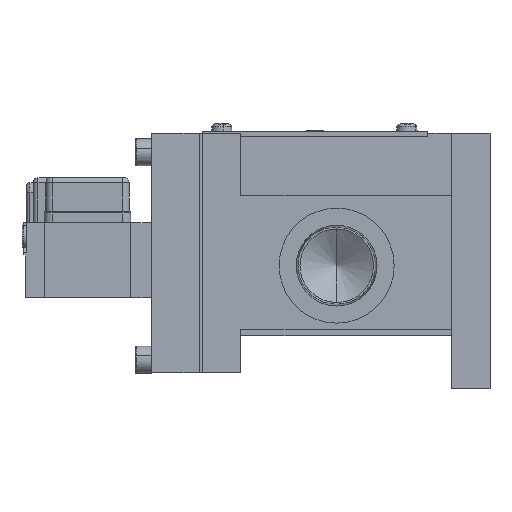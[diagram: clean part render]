
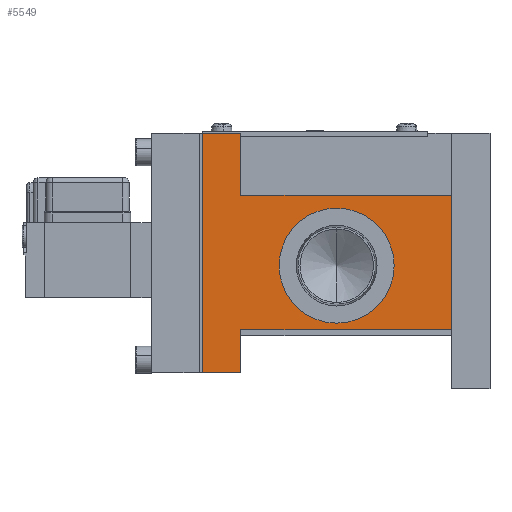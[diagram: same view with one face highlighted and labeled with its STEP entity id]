
A CAD part, left-side view. The second image highlights one B-rep face of the part: STEP entity #5549.
In plain terms, the highlighted planar face has unit normal (-1, 0, 0).
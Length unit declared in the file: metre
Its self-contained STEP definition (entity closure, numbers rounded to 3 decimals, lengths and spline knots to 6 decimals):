
#288 = CARTESIAN_POINT ( 'NONE',  ( -0.0325, 0.09, 0.004 ) ) ;
#320 = VECTOR ( 'NONE', #12062, 1. ) ;
#428 = CARTESIAN_POINT ( 'NONE',  ( -0.0325, 0.048, 0. ) ) ;
#600 = CARTESIAN_POINT ( 'NONE',  ( -0.0325, 0.078, -0.0335 ) ) ;
#643 = LINE ( 'NONE', #4967, #10342 ) ;
#836 = DIRECTION ( 'NONE',  ( 0., 0., -1. ) ) ;
#866 = FACE_BOUND ( 'NONE', #1503, .T. ) ;
#899 = DIRECTION ( 'NONE',  ( 0., 1., 0. ) ) ;
#1085 = DIRECTION ( 'NONE',  ( 0., 1., 0. ) ) ;
#1101 = ORIENTED_EDGE ( 'NONE', *, *, #8724, .T. ) ;
#1210 = LINE ( 'NONE', #14152, #14257 ) ;
#1503 = EDGE_LOOP ( 'NONE', ( #3182, #1101 ) ) ;
#1662 = DIRECTION ( 'NONE',  ( 0., 0., -1. ) ) ;
#1748 = DIRECTION ( 'NONE',  ( 1., 0., 0. ) ) ;
#1763 = DIRECTION ( 'NONE',  ( 0., 0., 1. ) ) ;
#1984 = VERTEX_POINT ( 'NONE', #8674 ) ;
#2040 = LINE ( 'NONE', #288, #15814 ) ;
#2137 = ORIENTED_EDGE ( 'NONE', *, *, #10901, .T. ) ;
#2199 = ORIENTED_EDGE ( 'NONE', *, *, #7840, .T. ) ;
#2633 = VERTEX_POINT ( 'NONE', #14774 ) ;
#2727 = VERTEX_POINT ( 'NONE', #4761 ) ;
#3182 = ORIENTED_EDGE ( 'NONE', *, *, #12745, .T. ) ;
#4148 = DIRECTION ( 'NONE',  ( 0., -1., 0. ) ) ;
#4312 = AXIS2_PLACEMENT_3D ( 'NONE', #9349, #1748, #10632 ) ;
#4737 = CARTESIAN_POINT ( 'NONE',  ( -0.0325, 0.048, 0.018 ) ) ;
#4761 = CARTESIAN_POINT ( 'NONE',  ( -0.0325, 0.048, -0.018 ) ) ;
#4770 = VERTEX_POINT ( 'NONE', #600 ) ;
#4842 = LINE ( 'NONE', #16134, #8600 ) ;
#4967 = CARTESIAN_POINT ( 'NONE',  ( -0.0325, 0.078, 0.004 ) ) ;
#5549 = ADVANCED_FACE ( 'NONE', ( #866, #13499 ), #12273, .T. ) ;
#5986 = VECTOR ( 'NONE', #1763, 1. ) ;
#6794 = CIRCLE ( 'NONE', #4312, 0.018 ) ;
#7250 = DIRECTION ( 'NONE',  ( -1., 0., 0. ) ) ;
#7840 = EDGE_CURVE ( 'NONE', #12888, #12565, #4842, .T. ) ;
#8033 = EDGE_CURVE ( 'NONE', #12565, #12312, #2040, .T. ) ;
#8111 = CARTESIAN_POINT ( 'NONE',  ( -0.0325, 0.078, 0.004 ) ) ;
#8236 = ORIENTED_EDGE ( 'NONE', *, *, #9295, .T. ) ;
#8257 = CARTESIAN_POINT ( 'NONE',  ( -0.0325, 0.012, -0.02 ) ) ;
#8307 = ORIENTED_EDGE ( 'NONE', *, *, #11394, .F. ) ;
#8363 = CARTESIAN_POINT ( 'NONE',  ( -0.0325, 0.078, 0.0415 ) ) ;
#8600 = VECTOR ( 'NONE', #1085, 1. ) ;
#8607 = ORIENTED_EDGE ( 'NONE', *, *, #8703, .T. ) ;
#8674 = CARTESIAN_POINT ( 'NONE',  ( -0.0325, 0.078, 0.022 ) ) ;
#8703 = EDGE_CURVE ( 'NONE', #12312, #4770, #1210, .T. ) ;
#8724 = EDGE_CURVE ( 'NONE', #14376, #2727, #13482, .T. ) ;
#8818 = VECTOR ( 'NONE', #836, 1. ) ;
#8978 = EDGE_CURVE ( 'NONE', #4770, #2633, #643, .T. ) ;
#9120 = DIRECTION ( 'NONE',  ( 0., 0., -1. ) ) ;
#9274 = DIRECTION ( 'NONE',  ( 1., 0., 0. ) ) ;
#9278 = AXIS2_PLACEMENT_3D ( 'NONE', #11018, #7250, #15971 ) ;
#9295 = EDGE_CURVE ( 'NONE', #1984, #12888, #9751, .T. ) ;
#9349 = CARTESIAN_POINT ( 'NONE',  ( -0.0325, 0.048, 0. ) ) ;
#9543 = ORIENTED_EDGE ( 'NONE', *, *, #8033, .T. ) ;
#9642 = LINE ( 'NONE', #15937, #12596 ) ;
#9751 = LINE ( 'NONE', #8111, #5986 ) ;
#9834 = CARTESIAN_POINT ( 'NONE',  ( -0.0325, 0.09, -0.0335 ) ) ;
#10310 = CARTESIAN_POINT ( 'NONE',  ( -0.0325, 0.09, 0.0415 ) ) ;
#10342 = VECTOR ( 'NONE', #16226, 1. ) ;
#10375 = ORIENTED_EDGE ( 'NONE', *, *, #11339, .T. ) ;
#10380 = VERTEX_POINT ( 'NONE', #16106 ) ;
#10400 = LINE ( 'NONE', #8257, #320 ) ;
#10632 = DIRECTION ( 'NONE',  ( 0., 0., -1. ) ) ;
#10901 = EDGE_CURVE ( 'NONE', #15234, #1984, #9642, .T. ) ;
#11018 = CARTESIAN_POINT ( 'NONE',  ( -0.0325, 0.012, -0.0335 ) ) ;
#11339 = EDGE_CURVE ( 'NONE', #2633, #10380, #10400, .T. ) ;
#11394 = EDGE_CURVE ( 'NONE', #15234, #10380, #15452, .T. ) ;
#11509 = EDGE_LOOP ( 'NONE', ( #9543, #8607, #14597, #10375, #8307, #2137, #8236, #2199 ) ) ;
#12062 = DIRECTION ( 'NONE',  ( 0., -1., 0. ) ) ;
#12273 = PLANE ( 'NONE',  #9278 ) ;
#12312 = VERTEX_POINT ( 'NONE', #9834 ) ;
#12565 = VERTEX_POINT ( 'NONE', #10310 ) ;
#12596 = VECTOR ( 'NONE', #899, 1. ) ;
#12745 = EDGE_CURVE ( 'NONE', #2727, #14376, #6794, .T. ) ;
#12823 = CARTESIAN_POINT ( 'NONE',  ( -0.0325, 0.012, 0.022 ) ) ;
#12888 = VERTEX_POINT ( 'NONE', #8363 ) ;
#13482 = CIRCLE ( 'NONE', #13644, 0.018 ) ;
#13499 = FACE_OUTER_BOUND ( 'NONE', #11509, .T. ) ;
#13644 = AXIS2_PLACEMENT_3D ( 'NONE', #428, #9274, #1662 ) ;
#14152 = CARTESIAN_POINT ( 'NONE',  ( -0.0325, 0.051, -0.0335 ) ) ;
#14257 = VECTOR ( 'NONE', #4148, 1. ) ;
#14376 = VERTEX_POINT ( 'NONE', #4737 ) ;
#14597 = ORIENTED_EDGE ( 'NONE', *, *, #8978, .T. ) ;
#14774 = CARTESIAN_POINT ( 'NONE',  ( -0.0325, 0.078, -0.02 ) ) ;
#15234 = VERTEX_POINT ( 'NONE', #12823 ) ;
#15452 = LINE ( 'NONE', #15891, #8818 ) ;
#15814 = VECTOR ( 'NONE', #9120, 1. ) ;
#15891 = CARTESIAN_POINT ( 'NONE',  ( -0.0325, 0.012, -0.0385 ) ) ;
#15937 = CARTESIAN_POINT ( 'NONE',  ( -0.0325, 0.012, 0.022 ) ) ;
#15971 = DIRECTION ( 'NONE',  ( 0., 0., 1. ) ) ;
#16106 = CARTESIAN_POINT ( 'NONE',  ( -0.0325, 0.012, -0.02 ) ) ;
#16134 = CARTESIAN_POINT ( 'NONE',  ( -0.0325, 0.051, 0.0415 ) ) ;
#16226 = DIRECTION ( 'NONE',  ( 0., 0., 1. ) ) ;
